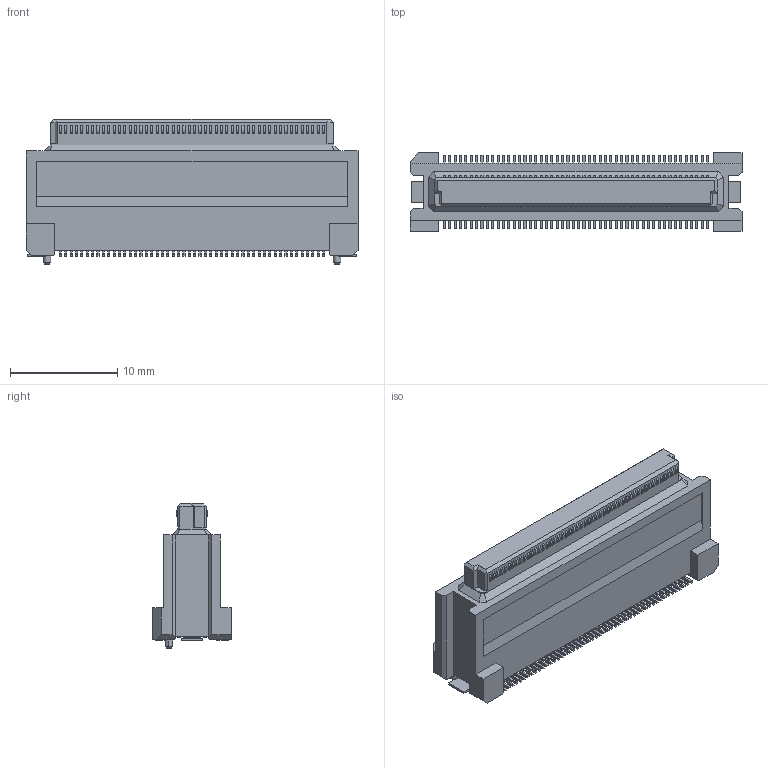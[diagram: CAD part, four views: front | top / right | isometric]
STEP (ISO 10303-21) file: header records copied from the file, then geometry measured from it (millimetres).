
FILE_DESCRIPTION(('Creo Elements/Direct Modeling STEP Export'),'2;1');
FILE_NAME('DY11-100FS-4.stp','2017-11-27T16:34:42',(''),(''),'Creo Elements/Direct Modeling STEP processor for AP214 (Solid Model)','Creo Elements/Direct Modeling 19.0F 14-Feb-2017 (C) Parametric Technology GmbH','');
FILE_SCHEMA(('AUTOMOTIVE_DESIGN { 1 0 10303 214 1 1 1 1 }'));
Length unit declared in the file: millimetre
Products named in the file (2): DY11-100FS-4
Assembly tree (1 placements, depth 2):
  DY11-100FS-4
    DY11-100FS-4
Bounding box: 30.9 x 7.3 x 13.5 mm (x, y, z)
Volume: 1577.3 mm3; surface area: 1436.6 mm2
Topology: 1 solids, 1 shells, 1460 faces, 4013 edges, 2662 vertices
Faces by surface type: plane 1038, cylinder 410, bspline 8, cone 4
Entity records: 46403 total; most frequent: CARTESIAN_POINT 9240, ORIENTED_EDGE 8026, DIRECTION 7311, EDGE_CURVE 4013, VECTOR 3165, LINE 3165, VERTEX_POINT 2662, AXIS2_PLACEMENT_3D 2073
